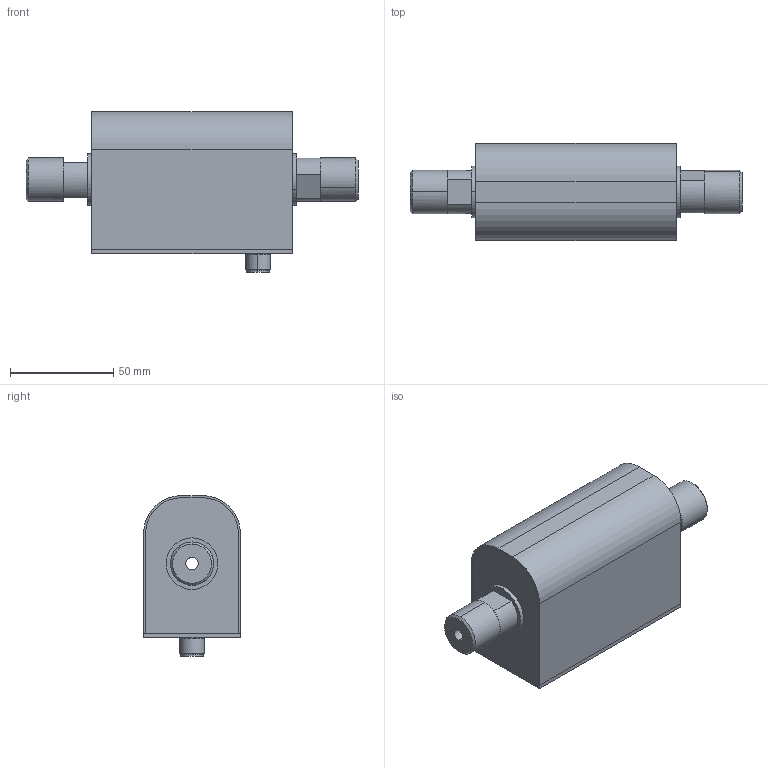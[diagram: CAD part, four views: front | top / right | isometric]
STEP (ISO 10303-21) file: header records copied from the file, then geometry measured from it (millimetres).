
FILE_DESCRIPTION (( 'STEP AP203' ), '1' );
FILE_NAME ('F32_Thread_DN6.STEP', '2019-10-03T16:48:56', ( 'Uživatel systému Windows' ), ( '' ), 'SwSTEP 2.0', 'SolidWorks 2017', '' );
FILE_SCHEMA (( 'CONFIG_CONTROL_DESIGN' ));
Length unit declared in the file: millimetre
Products named in the file (8): F32-130-3-3_2019(F32DN4-18 Výpylek èela); F32-90-1-3_2018(F32DN4-20_Kryt Plech_r2); Konektor M12_8pin; F32-90-3-2_2019(F32 DN4-18 閣咜ek Plech bez displeje ); F32-11-20-3_2019 (F32 G1_2 šroubení DN4-15); FPW_Svìtlovod; F32_Thread_DN6; FPW_Svìtlovod2
Assembly tree (9 placements, depth 2):
  F32_Thread_DN6
    F32-130-3-3_2019(F32DN4-18 Výpylek èela)  x2
    F32-90-1-3_2018(F32DN4-20_Kryt Plech_r2)
    F32-90-3-2_2019(F32 DN4-18 閣咜ek Plech bez displeje )
    FPW_Svìtlovod
    FPW_Svìtlovod2
    Konektor M12_8pin
    F32-11-20-3_2019 (F32 G1_2 šroubení DN4-15)  x2
Bounding box: 161 x 47 x 78 mm (x, y, z)
Volume: 85012.3 mm3; surface area: 69798.5 mm2
Topology: 9 solids, 9 shells, 513 faces, 1322 edges, 860 vertices
Faces by surface type: plane 324, cylinder 139, cone 22, bspline 20, torus 8
Entity records: 15327 total; most frequent: CARTESIAN_POINT 2847, ORIENTED_EDGE 2408, DIRECTION 2389, EDGE_CURVE 1204, VECTOR 897, LINE 897, VERTEX_POINT 794, AXIS2_PLACEMENT_3D 746
